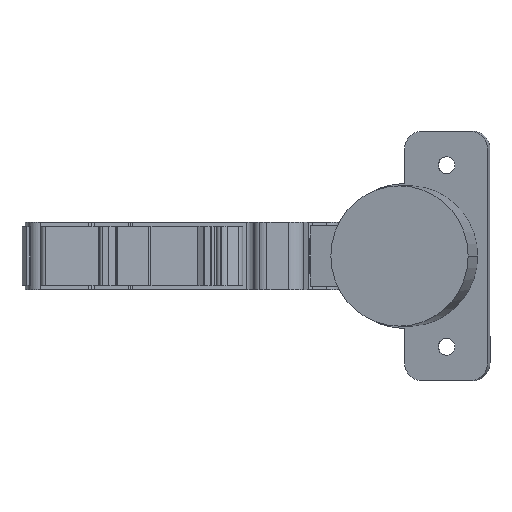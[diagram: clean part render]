
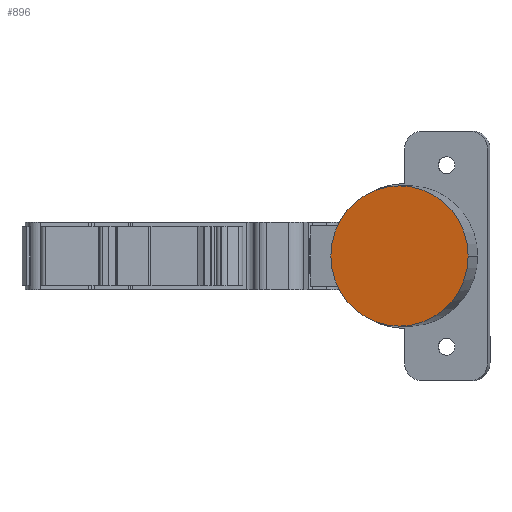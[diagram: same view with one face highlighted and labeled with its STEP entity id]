
A CAD part, front view. The second image highlights one B-rep face of the part: STEP entity #896.
In plain terms, the highlighted planar face has unit normal (-0.206, -0.979, 0).
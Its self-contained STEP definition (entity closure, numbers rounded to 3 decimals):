
#377 = DIRECTION ( 'NONE',  ( 0., 0., -1. ) ) ;
#462 = EDGE_CURVE ( 'NONE', #2902, #2887, #3263, .T. ) ;
#896 = ADVANCED_FACE ( 'NONE', ( #5149 ), #2157, .F. ) ;
#1054 = AXIS2_PLACEMENT_3D ( 'NONE', #3435, #4759, #377 ) ;
#1070 = CIRCLE ( 'NONE', #1353, 17.4 ) ;
#1353 = AXIS2_PLACEMENT_3D ( 'NONE', #5249, #2581, #5692 ) ;
#1572 = AXIS2_PLACEMENT_3D ( 'NONE', #2518, #5177, #2075 ) ;
#1596 = ORIENTED_EDGE ( 'NONE', *, *, #2536, .T. ) ;
#2007 = EDGE_LOOP ( 'NONE', ( #4590, #1596 ) ) ;
#2075 = DIRECTION ( 'NONE',  ( 0.979, -0.206, 0. ) ) ;
#2157 = PLANE ( 'NONE',  #1054 ) ;
#2393 = CARTESIAN_POINT ( 'NONE',  ( 2.333, -18.554, 0. ) ) ;
#2518 = CARTESIAN_POINT ( 'NONE',  ( 19.361, -22.136, 0. ) ) ;
#2536 = EDGE_CURVE ( 'NONE', #2887, #2902, #1070, .T. ) ;
#2581 = DIRECTION ( 'NONE',  ( -0.206, -0.979, 0. ) ) ;
#2887 = VERTEX_POINT ( 'NONE', #4603 ) ;
#2902 = VERTEX_POINT ( 'NONE', #2393 ) ;
#3263 = CIRCLE ( 'NONE', #1572, 17.4 ) ;
#3435 = CARTESIAN_POINT ( 'NONE',  ( 31.397, -24.668, -5.564 ) ) ;
#4590 = ORIENTED_EDGE ( 'NONE', *, *, #462, .T. ) ;
#4603 = CARTESIAN_POINT ( 'NONE',  ( 36.388, -25.718, 0. ) ) ;
#4759 = DIRECTION ( 'NONE',  ( 0.206, 0.979, 0. ) ) ;
#5149 = FACE_OUTER_BOUND ( 'NONE', #2007, .T. ) ;
#5177 = DIRECTION ( 'NONE',  ( -0.206, -0.979, 0. ) ) ;
#5249 = CARTESIAN_POINT ( 'NONE',  ( 19.361, -22.136, 0. ) ) ;
#5692 = DIRECTION ( 'NONE',  ( 0.979, -0.206, 0. ) ) ;
